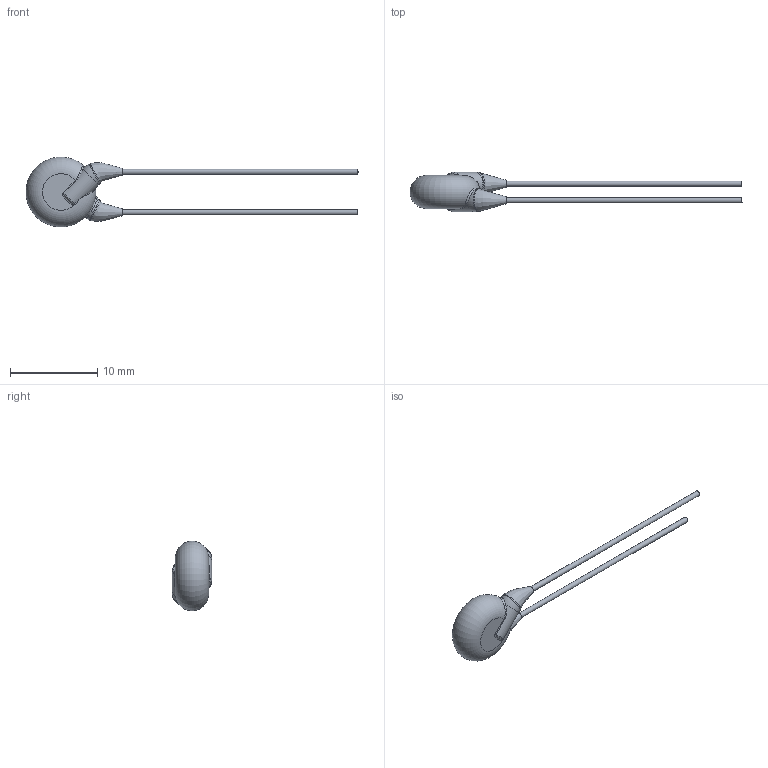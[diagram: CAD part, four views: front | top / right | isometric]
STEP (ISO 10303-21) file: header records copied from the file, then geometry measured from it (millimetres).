
FILE_DESCRIPTION(/* description */ (''),/* implementation_level */ '2;1');
FILE_NAME(/* name */ 'I:\Marketing\M6t1\3D-Models\Zchng-Werk-3\Upload for homepage\Roederstein\WYO\Y5U_250-440\WYO182MCMBF0KR\WYO182MCMBF0KR.stp',/* time_stamp */ '2018-03-21T10:54:11+01:00',/* author */ ('sheinrich'),/* organization */ (''),/* preprocessor_version */ 'ST-DEVELOPER v16.1',/* originating_system */ 'Autodesk Inventor 2016',/* authorisation */ '');
FILE_SCHEMA (('AUTOMOTIVE_DESIGN { 1 0 10303 214 3 1 1 }'));
Length unit declared in the file: centimetre
Products named in the file (1): WYO182MCMBF0KR
Bounding box: 37.99 x 4.5 x 7.99 mm (x, y, z)
Volume: 199.3 mm3; surface area: 295.7 mm2
Topology: 1 solids, 1 shells, 31 faces, 66 edges, 39 vertices
Faces by surface type: bspline 14, plane 6, cylinder 6, torus 5
Full cylindrical faces by diameter (mm): 0.6 x2
Entity records: 1653 total; most frequent: CARTESIAN_POINT 1034, ORIENTED_EDGE 116, DIRECTION 92, EDGE_CURVE 58, AXIS2_PLACEMENT_3D 44, EDGE_LOOP 38, VERTEX_POINT 36, STYLED_ITEM 32
